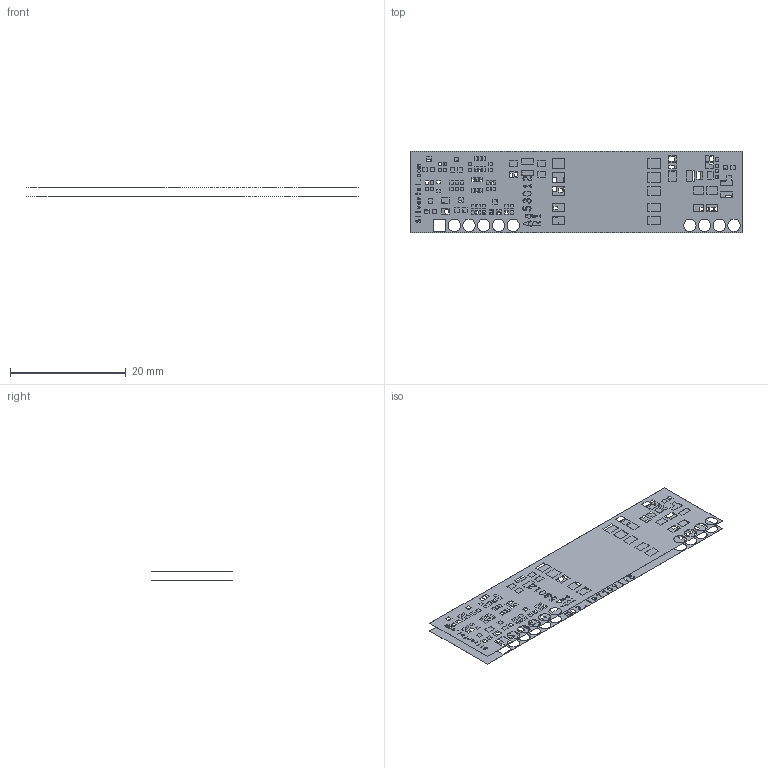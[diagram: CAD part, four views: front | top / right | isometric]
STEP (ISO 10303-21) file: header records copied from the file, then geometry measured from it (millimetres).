
FILE_DESCRIPTION(('FreeCAD Model'),'2;1');
FILE_NAME('Open CASCADE Shape Model','2026-04-21T10:07:32',(''),(''), 'Open CASCADE STEP processor 7.8','FreeCAD','Unknown');
FILE_SCHEMA(('AUTOMOTIVE_DESIGN { 1 0 10303 214 1 1 1 1 }'));
Products named in the file (1): Ag53000_detailed
Bounding box: 57.28 x 14.02 x 1.64 mm (x, y, z)
Surface area: 2670.4 mm2 (no closed solid volume)
Topology: 0 solids, 2 shells, 2105 faces, 6335 edges, 4202 vertices
Faces by surface type: extrusion 1615, revolution 490
Entity records: 198449 total; most frequent: CARTESIAN_POINT 36528, ORIENTED_EDGE 32224, DIRECTION 29639, VECTOR 22043, LINE 18049, EDGE_CURVE 16118, VERTEX_POINT 10397, FACE_BOUND 6616
